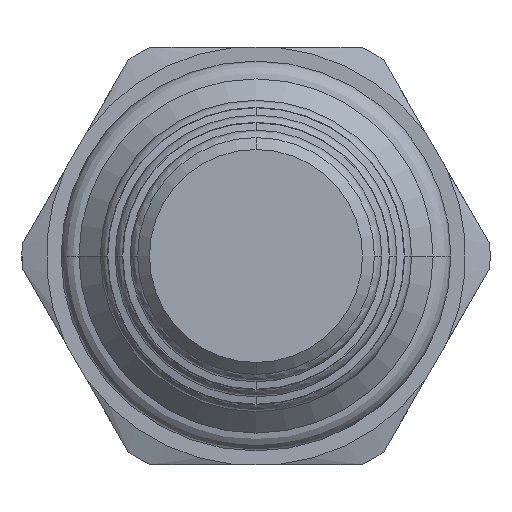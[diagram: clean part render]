
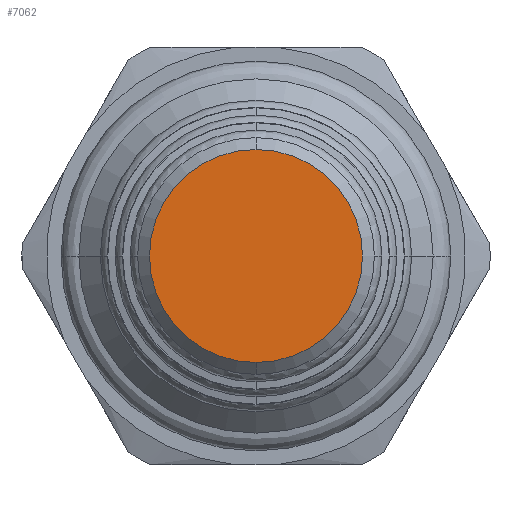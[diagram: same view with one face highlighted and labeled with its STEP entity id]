
A CAD part, front view. The second image highlights one B-rep face of the part: STEP entity #7062.
In plain terms, the highlighted planar face has unit normal (0, -1, 0).
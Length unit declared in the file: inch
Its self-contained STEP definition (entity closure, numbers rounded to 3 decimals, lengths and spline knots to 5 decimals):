
#2692=CARTESIAN_POINT('',(0.,-2.148,0.));
#2693=DIRECTION('',(0.,-1.,0.));
#2694=DIRECTION('',(0.,0.,1.));
#2695=AXIS2_PLACEMENT_3D('',#2692,#2693,#2694);
#2702=CARTESIAN_POINT('',(0.,-2.148,0.));
#2703=DIRECTION('',(0.,-1.,0.));
#2704=DIRECTION('',(0.,0.,-1.));
#2705=AXIS2_PLACEMENT_3D('',#2702,#2703,#2704);
#2921=CARTESIAN_POINT('',(0.,-2.148,0.2235));
#2922=CARTESIAN_POINT('',(0.,-2.148,-0.2235));
#2923=VERTEX_POINT('',#2921);
#2924=VERTEX_POINT('',#2922);
#7052=CARTESIAN_POINT('',(0.,-2.148,0.));
#7053=DIRECTION('',(0.,-1.,0.));
#7054=DIRECTION('',(-1.,0.,0.));
#7055=AXIS2_PLACEMENT_3D('',#7052,#7053,#7054);
#7056=PLANE('',#7055);
#7058=ORIENTED_EDGE('',*,*,#7057,.F.);
#7059=ORIENTED_EDGE('',*,*,#7042,.F.);
#7060=EDGE_LOOP('',(#7058,#7059));
#7061=FACE_OUTER_BOUND('',#7060,.F.);
#7062=ADVANCED_FACE('',(#7061),#7056,.T.);
#2696=CIRCLE('',#2695,0.2235);
#2706=CIRCLE('',#2705,0.2235);
#7042=EDGE_CURVE('',#2923,#2924,#2696,.T.);
#7057=EDGE_CURVE('',#2924,#2923,#2706,.T.);
